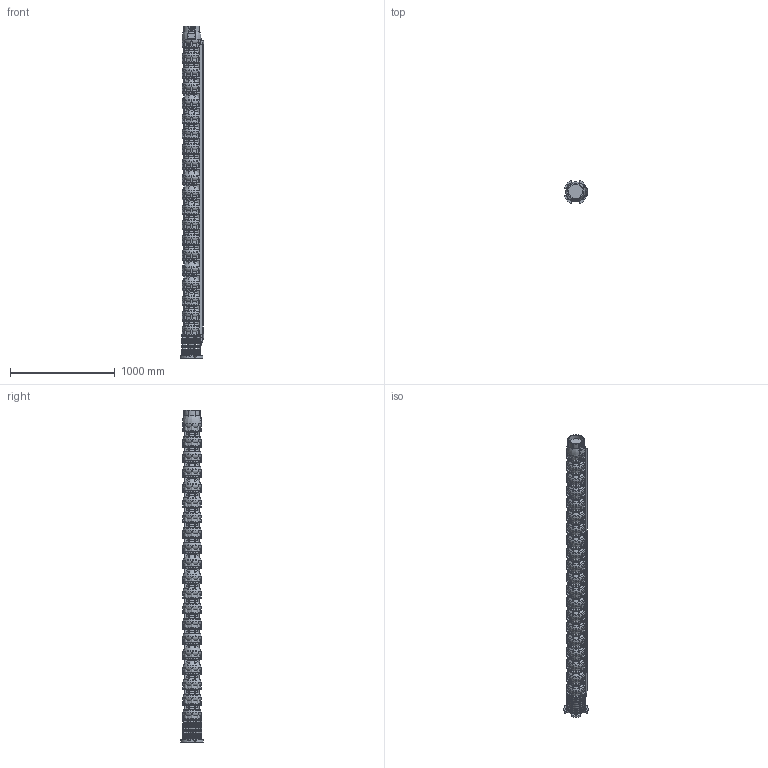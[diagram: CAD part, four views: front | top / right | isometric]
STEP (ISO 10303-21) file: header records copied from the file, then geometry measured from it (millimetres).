
FILE_DESCRIPTION(/* description */ ('Unknown'),/* implementation_level */ '2;1');
FILE_NAME(/* name */ 'VSI134-19_WR_M10-50_DME',/* time_stamp */ '2023-09-14T14:40:25+02:00',/* author */ ('Unknown'),/* organization */ ('Unknown'),/* preprocessor_version */ 'ST-DEVELOPER v18.102',/* originating_system */ 'Solid Edge',/* authorisation */ 'Unknown');
FILE_SCHEMA (('AUTOMOTIVE_DESIGN {1 0 10303 214 3 1 1}'));
Products named in the file (12): VSI134-19_WR_M10-50_DME; VSI134_testata; VSI134_diffusore; VSI134_supporto_8×8; VSI134_adattatore_8×10; VSI134_filtro_A; VSI134_filtro_B; VSI134_terminale_top_copricavo_medio; VSI134_terminale_bottom_copricavo_medio; MID 134-19; M5X8_UNI7687; VSI134_giunto_8×10
Assembly tree (38 placements, depth 2):
  VSI134-19_WR_M10-50_DME
    VSI134_testata
    VSI134_diffusore  x19
    VSI134_supporto_8×8
    VSI134_adattatore_8×10
    VSI134_filtro_A
    VSI134_filtro_B
    VSI134_terminale_top_copricavo_medio
    VSI134_terminale_bottom_copricavo_medio
    MID 134-19
    M5X8_UNI7687  x10
    VSI134_giunto_8×10
Bounding box: 221.78 x 213.16 x 3173 mm (x, y, z)
Volume: 59514501.9 mm3; surface area: 4507186.8 mm2
Topology: 77 solids, 79 shells, 5615 faces, 15813 edges, 10567 vertices
Faces by surface type: plane 3930, torus 871, cylinder 699, cone 72, bspline 31, sphere 12
Full cylindrical faces by diameter (mm): 2.4 x2, 3 x2, 4.2 x16, 5 x10, 5.5 x8, 14 x4, 16 x4, 17.5 x4, 26 x1, 30 x4, 44 x1, 65 x1, 69 x1, 74 x1, 84 x1, 98 x1, 127 x2, 135.472 x1, 157 x1, 182 x20
Entity records: 85387 total; most frequent: CARTESIAN_POINT 18303, ORIENTED_EDGE 13946, DIRECTION 13470, EDGE_CURVE 6973, VERTEX_POINT 4707, AXIS2_PLACEMENT_3D 4613, LINE 4244, VECTOR 4244
